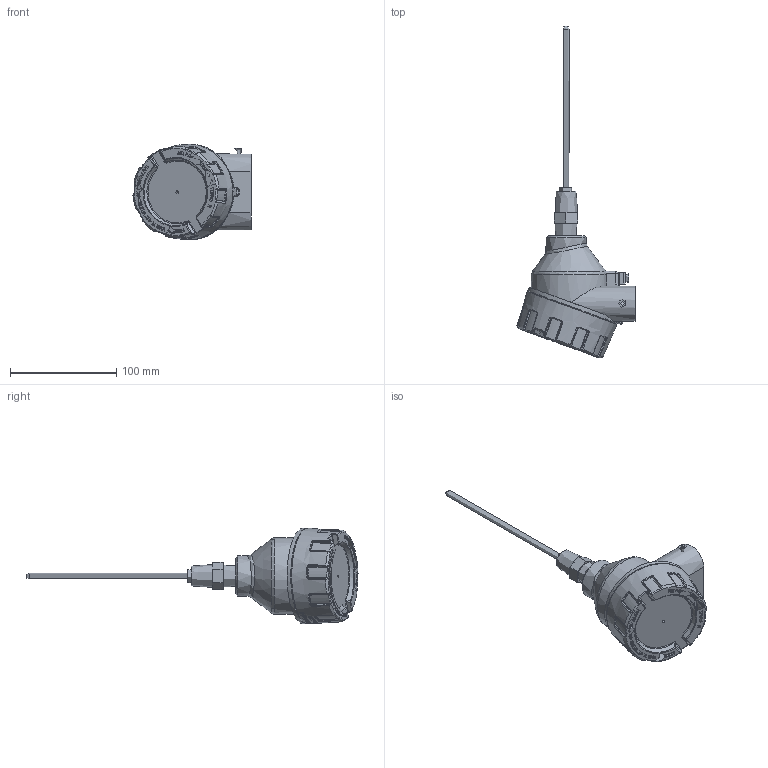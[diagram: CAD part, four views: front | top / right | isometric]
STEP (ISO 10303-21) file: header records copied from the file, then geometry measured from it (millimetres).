
FILE_DESCRIPTION(/* description */ (''),/* implementation_level */ '2;1');
FILE_NAME(/* name */ 'P:\3D Drawings\Z-temp\Z-Temp-Head-Spring-Loaded-Bushing\Z-Temp-Head-Spring-Loaded-STP\Z-Temp-Head-Spring-Loaded-STP.stp',/* time_stamp */ '2015-11-23T08:48:18-08:00',/* author */ ('charles'),/* organization */ (''),/* preprocessor_version */ 'ST-DEVELOPER v15.2',/* originating_system */ 'Autodesk Inventor 2014',/* authorisation */ '');
FILE_SCHEMA (('AUTOMOTIVE_DESIGN { 1 0 10303 214 3 1 1 }'));
Products named in the file (1): Z-Temp-Head-Spring-Loaded
Bounding box: 111.13 x 312.62 x 89.98 mm (x, y, z)
Volume: 273397.2 mm3; surface area: 82859.5 mm2
Topology: 4 solids, 9 shells, 1414 faces, 3538 edges, 2216 vertices
Faces by surface type: plane 615, bspline 528, cylinder 153, cone 56, torus 55, sphere 7
Full cylindrical faces by diameter (mm): 2.013 x2, 2.459 x1, 2.46 x1, 2.6 x1, 3.242 x8, 3.9 x1, 4 x1, 4.1 x1, 4.134 x1, 4.2 x1, 4.5 x1, 4.8 x1, 4.9 x1, 5 x2, 5.2 x1, 6 x2, 6.35 x2, 6.5 x1, 6.8 x1, 7 x1, 7.28 x1, 8.4 x1, 11.789 x1, 12.7 x2, 12.8 x1, 15 x2, 17.272 x1, 18.376 x2, 19.05 x1, 24.117 x1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
Entity records: 95275 total; most frequent: CARTESIAN_POINT 65038, ORIENTED_EDGE 6772, DIRECTION 4861, EDGE_CURVE 3385, VERTEX_POINT 2182, LINE 1685, VECTOR 1685, EDGE_LOOP 1635
